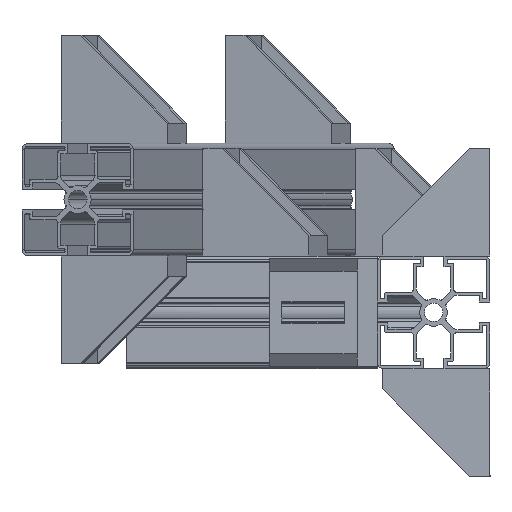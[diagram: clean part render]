
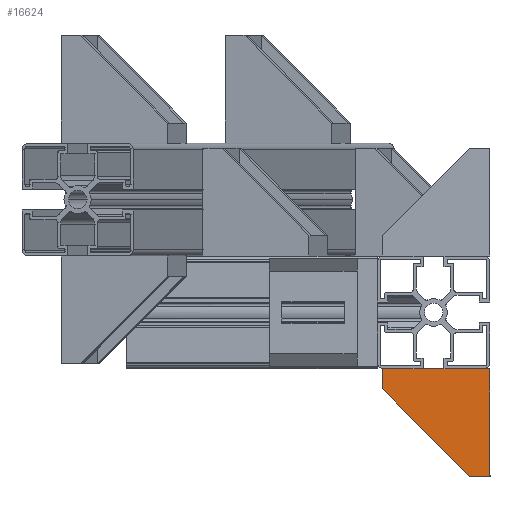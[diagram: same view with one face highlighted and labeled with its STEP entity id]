
A CAD part, left-side view. The second image highlights one B-rep face of the part: STEP entity #16624.
In plain terms, the highlighted planar face has unit normal (-1, 0, 0).
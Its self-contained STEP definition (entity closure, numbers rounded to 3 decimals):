
#2639 = CARTESIAN_POINT ( 'NONE',  ( -281.809, -73.515, -88. ) ) ;
#2653 = CARTESIAN_POINT ( 'NONE',  ( -281.809, -38.515, -45. ) ) ;
#2655 = CARTESIAN_POINT ( 'NONE',  ( -281.809, -81.515, -45. ) ) ;
#2661 = CARTESIAN_POINT ( 'NONE',  ( -281.809, -81.515, -88. ) ) ;
#2664 = CARTESIAN_POINT ( 'NONE',  ( -281.809, -38.515, -53. ) ) ;
#5004 = FACE_OUTER_BOUND ( 'NONE', #16382, .T. ) ;
#6053 = CARTESIAN_POINT ( 'NONE',  ( -281.809, -38.515, -45. ) ) ;
#6056 = PLANE ( 'NONE',  #18768 ) ;
#6058 = DIRECTION ( 'NONE',  ( 1., 0., 0. ) ) ;
#6059 = DIRECTION ( 'NONE',  ( 0., -1., 0. ) ) ;
#9719 = VERTEX_POINT ( 'NONE', #2639 ) ;
#9759 = VERTEX_POINT ( 'NONE', #2653 ) ;
#9765 = VERTEX_POINT ( 'NONE', #2655 ) ;
#9778 = VERTEX_POINT ( 'NONE', #2661 ) ;
#9785 = VERTEX_POINT ( 'NONE', #2664 ) ;
#12318 = LINE ( 'NONE', #13463, #12323 ) ;
#12323 = VECTOR ( 'NONE', #13471, 1000. ) ;
#12324 = LINE ( 'NONE', #13472, #12333 ) ;
#12333 = VECTOR ( 'NONE', #13481, 1000. ) ;
#12338 = LINE ( 'NONE', #13479, #12351 ) ;
#12351 = VECTOR ( 'NONE', #13499, 1000. ) ;
#12360 = LINE ( 'NONE', #13510, #12363 ) ;
#12362 = LINE ( 'NONE', #13512, #12365 ) ;
#12363 = VECTOR ( 'NONE', #13511, 1000. ) ;
#12365 = VECTOR ( 'NONE', #13513, 1000. ) ;
#13463 = CARTESIAN_POINT ( 'NONE',  ( -281.809, -38.515, -53. ) ) ;
#13471 = DIRECTION ( 'NONE',  ( 0., 0., -1. ) ) ;
#13472 = CARTESIAN_POINT ( 'NONE',  ( -281.809, -81.515, -88. ) ) ;
#13479 = CARTESIAN_POINT ( 'NONE',  ( -281.809, -81.515, -45. ) ) ;
#13481 = DIRECTION ( 'NONE',  ( 0., -1., 0. ) ) ;
#13499 = DIRECTION ( 'NONE',  ( 0., 0., 1. ) ) ;
#13510 = CARTESIAN_POINT ( 'NONE',  ( -281.809, -38.515, -45. ) ) ;
#13511 = DIRECTION ( 'NONE',  ( 0., 1., 0. ) ) ;
#13512 = CARTESIAN_POINT ( 'NONE',  ( -281.809, -73.515, -88. ) ) ;
#13513 = DIRECTION ( 'NONE',  ( 0., 0.707, 0.707 ) ) ;
#14823 = ORIENTED_EDGE ( 'NONE', *, *, #19893, .T. ) ;
#14824 = ORIENTED_EDGE ( 'NONE', *, *, #19914, .F. ) ;
#14825 = ORIENTED_EDGE ( 'NONE', *, *, #19898, .T. ) ;
#14826 = ORIENTED_EDGE ( 'NONE', *, *, #19907, .T. ) ;
#14827 = ORIENTED_EDGE ( 'NONE', *, *, #19913, .T. ) ;
#16382 = EDGE_LOOP ( 'NONE', ( #14823, #14824, #14825, #14826, #14827 ) ) ;
#16624 = ADVANCED_FACE ( 'NONE', ( #5004 ), #6056, .F. ) ;
#18768 = AXIS2_PLACEMENT_3D ( 'NONE', #6053, #6058, #6059 ) ;
#19893 = EDGE_CURVE ( 'NONE', #9759, #9785, #12318, .T. ) ;
#19898 = EDGE_CURVE ( 'NONE', #9719, #9778, #12324, .T. ) ;
#19907 = EDGE_CURVE ( 'NONE', #9778, #9765, #12338, .T. ) ;
#19913 = EDGE_CURVE ( 'NONE', #9765, #9759, #12360, .T. ) ;
#19914 = EDGE_CURVE ( 'NONE', #9719, #9785, #12362, .T. ) ;
